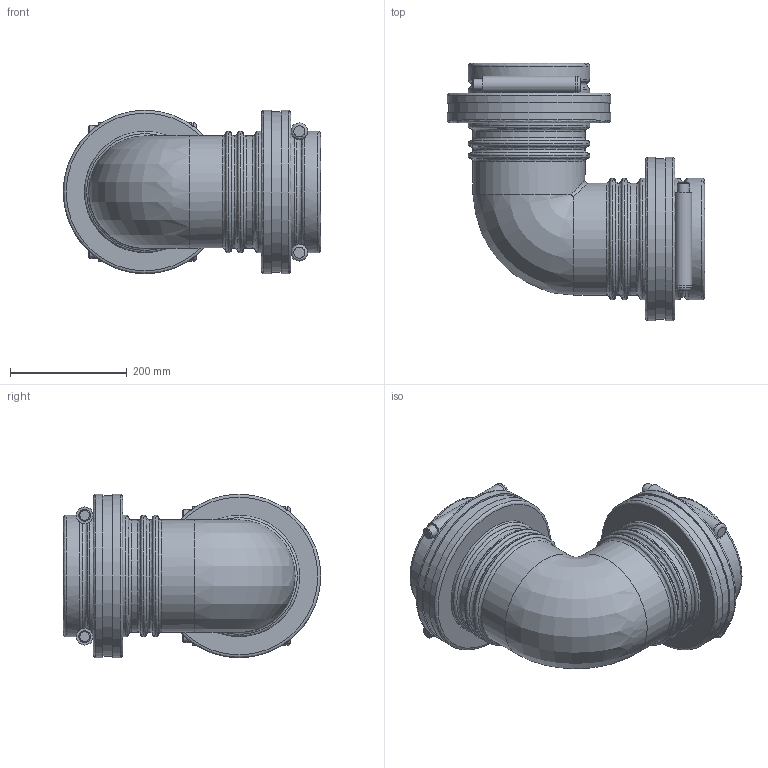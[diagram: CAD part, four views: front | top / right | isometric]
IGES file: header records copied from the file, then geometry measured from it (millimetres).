
Global section: file name: 070506160_0705061600A.ipt; native system: Autodesk Inventor 2015; preprocessor: unknown; author: KIM; date: 20170618.093353; units: millimetre
Bounding box: 441 x 441 x 280 mm (x, y, z)
Volume: 9968256.9 mm3; surface area: 878260.6 mm2
Topology: 1 solids, 1 shells, 129 faces, 320 edges, 213 vertices
Faces by surface type: revolution 58, cylinder 36, plane 30, cone 4, bspline 1
Full cylindrical faces by diameter (mm): 20.16 x4, 28.6 x4, 28.8 x4, 192 x6, 208 x8, 274.4 x2, 280 x4
